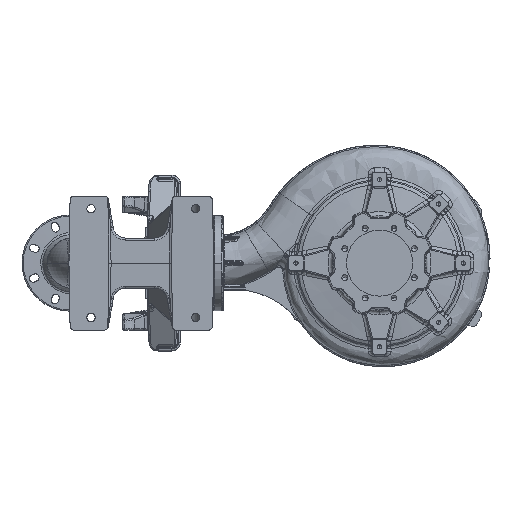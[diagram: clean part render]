
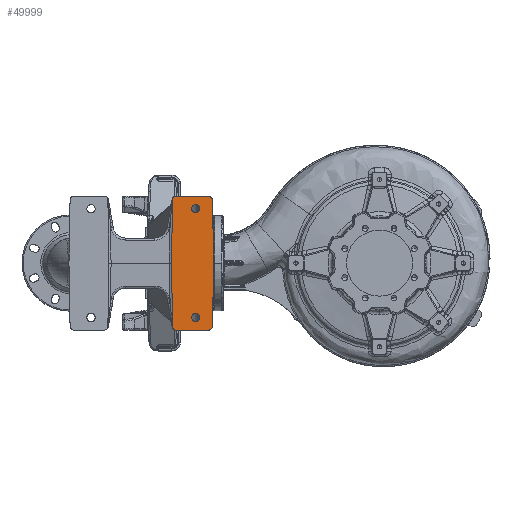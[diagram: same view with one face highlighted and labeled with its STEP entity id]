
A CAD part, front view. The second image highlights one B-rep face of the part: STEP entity #49999.
In plain terms, the highlighted planar face has unit normal (0, -1, 0).
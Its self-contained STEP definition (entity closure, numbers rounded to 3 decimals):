
#1022 = ORIENTED_EDGE ( 'NONE', *, *, #265696, .T. ) ;
#2128 = LINE ( 'NONE', #6475, #159577 ) ;
#2902 = CARTESIAN_POINT ( 'NONE',  ( -494.611, -659.5, -153.656 ) ) ;
#5385 = VERTEX_POINT ( 'NONE', #29586 ) ;
#5501 = VERTEX_POINT ( 'NONE', #18266 ) ;
#5539 = CARTESIAN_POINT ( 'NONE',  ( -439.5, -659.5, -130. ) ) ;
#5819 = AXIS2_PLACEMENT_3D ( 'NONE', #111979, #255548, #132518 ) ;
#6475 = CARTESIAN_POINT ( 'NONE',  ( -399.5, -659.5, -160. ) ) ;
#6639 = DIRECTION ( 'NONE',  ( 0., -1., 0. ) ) ;
#13213 = DIRECTION ( 'NONE',  ( 0., 0., 1. ) ) ;
#14347 = EDGE_CURVE ( 'NONE', #251800, #199049, #2128, .T. ) ;
#17193 = DIRECTION ( 'NONE',  ( 0.017, 0., -1. ) ) ;
#18266 = CARTESIAN_POINT ( 'NONE',  ( -486.109, -659.5, 160. ) ) ;
#19011 = VERTEX_POINT ( 'NONE', #74891 ) ;
#23966 = DIRECTION ( 'NONE',  ( -0.017, 0., -1. ) ) ;
#24048 = CIRCLE ( 'NONE', #5819, 10. ) ;
#24254 = AXIS2_PLACEMENT_3D ( 'NONE', #259221, #136170, #13213 ) ;
#26236 = DIRECTION ( 'NONE',  ( 0., 0., -1. ) ) ;
#26597 = VECTOR ( 'NONE', #79378, 1000. ) ;
#27157 = DIRECTION ( 'NONE',  ( 0.017, 0., 1. ) ) ;
#29434 = CIRCLE ( 'NONE', #67464, 10. ) ;
#29586 = CARTESIAN_POINT ( 'NONE',  ( -439.5, -659.5, -140. ) ) ;
#29996 = ORIENTED_EDGE ( 'NONE', *, *, #59245, .T. ) ;
#30567 = ORIENTED_EDGE ( 'NONE', *, *, #127622, .T. ) ;
#33192 = AXIS2_PLACEMENT_3D ( 'NONE', #5539, #149244, #26236 ) ;
#33444 = CARTESIAN_POINT ( 'NONE',  ( -439.5, -659.5, 140. ) ) ;
#34259 = VERTEX_POINT ( 'NONE', #46627 ) ;
#35732 = EDGE_CURVE ( 'NONE', #119758, #34259, #156387, .T. ) ;
#36112 = CARTESIAN_POINT ( 'NONE',  ( -489.612, -659.5, -153.568 ) ) ;
#37146 = CARTESIAN_POINT ( 'NONE',  ( -493.114, -659.5, -157.137 ) ) ;
#38240 = CIRCLE ( 'NONE', #107146, 5. ) ;
#39101 = CARTESIAN_POINT ( 'NONE',  ( -399.5, -659.5, -160. ) ) ;
#39270 = CARTESIAN_POINT ( 'NONE',  ( -494.611, -659.5, 153.656 ) ) ;
#39584 = VERTEX_POINT ( 'NONE', #116847 ) ;
#40015 = EDGE_CURVE ( 'NONE', #5501, #19011, #80062, .T. ) ;
#40122 = VERTEX_POINT ( 'NONE', #39270 ) ;
#44202 = DIRECTION ( 'NONE',  ( 0., -1., 0. ) ) ;
#46627 = CARTESIAN_POINT ( 'NONE',  ( -439.5, -659.5, 120. ) ) ;
#49439 = ORIENTED_EDGE ( 'NONE', *, *, #35732, .F. ) ;
#49999 = ADVANCED_FACE ( 'NONE', ( #232518, #129699, #75132 ), #258343, .F. ) ;
#50944 = DIRECTION ( 'NONE',  ( -1., 0., 0. ) ) ;
#54619 = DIRECTION ( 'NONE',  ( 0., -1., 0. ) ) ;
#56791 = DIRECTION ( 'NONE',  ( 0., 0., 1. ) ) ;
#57073 = AXIS2_PLACEMENT_3D ( 'NONE', #203257, #80265, #223848 ) ;
#58132 = CARTESIAN_POINT ( 'NONE',  ( -439.5, -659.5, -130. ) ) ;
#59245 = EDGE_CURVE ( 'NONE', #114021, #39584, #108035, .T. ) ;
#61619 = CIRCLE ( 'NONE', #209709, 10. ) ;
#63522 = VERTEX_POINT ( 'NONE', #37146 ) ;
#63599 = ORIENTED_EDGE ( 'NONE', *, *, #206758, .F. ) ;
#64185 = VECTOR ( 'NONE', #17193, 1000. ) ;
#64392 = CARTESIAN_POINT ( 'NONE',  ( -494.5, -659.5, 160. ) ) ;
#67464 = AXIS2_PLACEMENT_3D ( 'NONE', #58132, #201746, #78805 ) ;
#69813 = VERTEX_POINT ( 'NONE', #134048 ) ;
#70087 = AXIS2_PLACEMENT_3D ( 'NONE', #213917, #90894, #234505 ) ;
#74891 = CARTESIAN_POINT ( 'NONE',  ( -493.114, -659.5, 157.137 ) ) ;
#75132 = FACE_BOUND ( 'NONE', #221448, .T. ) ;
#78805 = DIRECTION ( 'NONE',  ( 0., 0., -1. ) ) ;
#79378 = DIRECTION ( 'NONE',  ( -0.017, 0., 1. ) ) ;
#80062 = CIRCLE ( 'NONE', #238724, 10. ) ;
#80265 = DIRECTION ( 'NONE',  ( 0., -1., 0. ) ) ;
#90894 = DIRECTION ( 'NONE',  ( 0., -1., 0. ) ) ;
#94608 = ORIENTED_EDGE ( 'NONE', *, *, #102085, .T. ) ;
#98251 = LINE ( 'NONE', #153257, #146427 ) ;
#102085 = EDGE_CURVE ( 'NONE', #199049, #250334, #245009, .T. ) ;
#104852 = ORIENTED_EDGE ( 'NONE', *, *, #118973, .T. ) ;
#107146 = AXIS2_PLACEMENT_3D ( 'NONE', #236173, #113218, #256810 ) ;
#107548 = ORIENTED_EDGE ( 'NONE', *, *, #14347, .T. ) ;
#108035 = LINE ( 'NONE', #39101, #162641 ) ;
#111979 = CARTESIAN_POINT ( 'NONE',  ( -439.5, -659.5, 130. ) ) ;
#113218 = DIRECTION ( 'NONE',  ( 0., -1., 0. ) ) ;
#114021 = VERTEX_POINT ( 'NONE', #175134 ) ;
#115485 = EDGE_CURVE ( 'NONE', #34259, #119758, #24048, .T. ) ;
#116847 = CARTESIAN_POINT ( 'NONE',  ( -409.327, -659.5, -160. ) ) ;
#117425 = ORIENTED_EDGE ( 'NONE', *, *, #148884, .T. ) ;
#118973 = EDGE_CURVE ( 'NONE', #40122, #119885, #128942, .T. ) ;
#119758 = VERTEX_POINT ( 'NONE', #33444 ) ;
#119885 = VERTEX_POINT ( 'NONE', #224564 ) ;
#120603 = EDGE_LOOP ( 'NONE', ( #117425, #145420, #1022, #29996, #230298, #107548, #94608, #156917, #125266, #249266, #30567, #104852 ) ) ;
#120640 = CARTESIAN_POINT ( 'NONE',  ( -396.707, -659.5, 0. ) ) ;
#125266 = ORIENTED_EDGE ( 'NONE', *, *, #144924, .T. ) ;
#127622 = EDGE_CURVE ( 'NONE', #19011, #40122, #38240, .T. ) ;
#127678 = EDGE_CURVE ( 'NONE', #69813, #5385, #240451, .T. ) ;
#128942 = LINE ( 'NONE', #64392, #225338 ) ;
#129622 = CARTESIAN_POINT ( 'NONE',  ( -409.327, -659.5, 150. ) ) ;
#129699 = FACE_BOUND ( 'NONE', #144403, .T. ) ;
#130444 = ORIENTED_EDGE ( 'NONE', *, *, #127678, .F. ) ;
#132518 = DIRECTION ( 'NONE',  ( 0., 0., -1. ) ) ;
#134048 = CARTESIAN_POINT ( 'NONE',  ( -439.5, -659.5, -120. ) ) ;
#134879 = AXIS2_PLACEMENT_3D ( 'NONE', #129622, #6639, #150322 ) ;
#136170 = DIRECTION ( 'NONE',  ( 0., 1., 0. ) ) ;
#144403 = EDGE_LOOP ( 'NONE', ( #63599, #130444 ) ) ;
#144924 = EDGE_CURVE ( 'NONE', #202188, #5501, #98251, .T. ) ;
#145420 = ORIENTED_EDGE ( 'NONE', *, *, #159085, .T. ) ;
#146427 = VECTOR ( 'NONE', #50944, 1000. ) ;
#148884 = EDGE_CURVE ( 'NONE', #119885, #243219, #173479, .T. ) ;
#149244 = DIRECTION ( 'NONE',  ( 0., -1., 0. ) ) ;
#150322 = DIRECTION ( 'NONE',  ( 0., 0., 1. ) ) ;
#153257 = CARTESIAN_POINT ( 'NONE',  ( -399.5, -659.5, 160. ) ) ;
#156387 = CIRCLE ( 'NONE', #57073, 10. ) ;
#156917 = ORIENTED_EDGE ( 'NONE', *, *, #263710, .T. ) ;
#159085 = EDGE_CURVE ( 'NONE', #243219, #63522, #245565, .T. ) ;
#159577 = VECTOR ( 'NONE', #27157, 1000. ) ;
#160883 = CARTESIAN_POINT ( 'NONE',  ( -494.5, -659.5, -160. ) ) ;
#162641 = VECTOR ( 'NONE', #198927, 1000. ) ;
#167265 = CARTESIAN_POINT ( 'NONE',  ( -409.327, -659.5, -150. ) ) ;
#173479 = LINE ( 'NONE', #160883, #64185 ) ;
#174102 = CARTESIAN_POINT ( 'NONE',  ( -409.327, -659.5, 160. ) ) ;
#175134 = CARTESIAN_POINT ( 'NONE',  ( -486.109, -659.5, -160. ) ) ;
#177546 = CARTESIAN_POINT ( 'NONE',  ( -399.328, -659.5, 150.175 ) ) ;
#177636 = CARTESIAN_POINT ( 'NONE',  ( -486.109, -659.5, 150. ) ) ;
#179787 = DIRECTION ( 'NONE',  ( 0., -1., 0. ) ) ;
#179895 = CIRCLE ( 'NONE', #70087, 10. ) ;
#187896 = DIRECTION ( 'NONE',  ( 0., 0., 1. ) ) ;
#198220 = DIRECTION ( 'NONE',  ( 0., 0., 1. ) ) ;
#198927 = DIRECTION ( 'NONE',  ( 1., 0., 0. ) ) ;
#199049 = VERTEX_POINT ( 'NONE', #219700 ) ;
#201746 = DIRECTION ( 'NONE',  ( 0., -1., 0. ) ) ;
#202188 = VERTEX_POINT ( 'NONE', #174102 ) ;
#203257 = CARTESIAN_POINT ( 'NONE',  ( -439.5, -659.5, 130. ) ) ;
#206758 = EDGE_CURVE ( 'NONE', #5385, #69813, #29434, .T. ) ;
#209709 = AXIS2_PLACEMENT_3D ( 'NONE', #167265, #44202, #187896 ) ;
#213917 = CARTESIAN_POINT ( 'NONE',  ( -486.109, -659.5, -150. ) ) ;
#219700 = CARTESIAN_POINT ( 'NONE',  ( -396.707, -659.5, 0. ) ) ;
#221448 = EDGE_LOOP ( 'NONE', ( #265481, #49439 ) ) ;
#223848 = DIRECTION ( 'NONE',  ( 0., 0., -1. ) ) ;
#224564 = CARTESIAN_POINT ( 'NONE',  ( -497.293, -659.5, 0. ) ) ;
#225338 = VECTOR ( 'NONE', #23966, 1000. ) ;
#230298 = ORIENTED_EDGE ( 'NONE', *, *, #234653, .T. ) ;
#231325 = AXIS2_PLACEMENT_3D ( 'NONE', #36112, #179787, #56791 ) ;
#232518 = FACE_OUTER_BOUND ( 'NONE', #120603, .T. ) ;
#234505 = DIRECTION ( 'NONE',  ( 0., 0., 1. ) ) ;
#234653 = EDGE_CURVE ( 'NONE', #39584, #251800, #61619, .T. ) ;
#236173 = CARTESIAN_POINT ( 'NONE',  ( -489.612, -659.5, 153.568 ) ) ;
#238724 = AXIS2_PLACEMENT_3D ( 'NONE', #177636, #54619, #198220 ) ;
#240451 = CIRCLE ( 'NONE', #33192, 10. ) ;
#243219 = VERTEX_POINT ( 'NONE', #2902 ) ;
#245009 = LINE ( 'NONE', #120640, #26597 ) ;
#245565 = CIRCLE ( 'NONE', #231325, 5. ) ;
#249266 = ORIENTED_EDGE ( 'NONE', *, *, #40015, .T. ) ;
#250334 = VERTEX_POINT ( 'NONE', #177546 ) ;
#251800 = VERTEX_POINT ( 'NONE', #252171 ) ;
#252171 = CARTESIAN_POINT ( 'NONE',  ( -399.328, -659.5, -150.175 ) ) ;
#255548 = DIRECTION ( 'NONE',  ( 0., -1., 0. ) ) ;
#256810 = DIRECTION ( 'NONE',  ( 0., 0., 1. ) ) ;
#258343 = PLANE ( 'NONE',  #24254 ) ;
#259221 = CARTESIAN_POINT ( 'NONE',  ( -500.086, -659.5, -160. ) ) ;
#263710 = EDGE_CURVE ( 'NONE', #250334, #202188, #265755, .T. ) ;
#265481 = ORIENTED_EDGE ( 'NONE', *, *, #115485, .F. ) ;
#265696 = EDGE_CURVE ( 'NONE', #63522, #114021, #179895, .T. ) ;
#265755 = CIRCLE ( 'NONE', #134879, 10. ) ;
